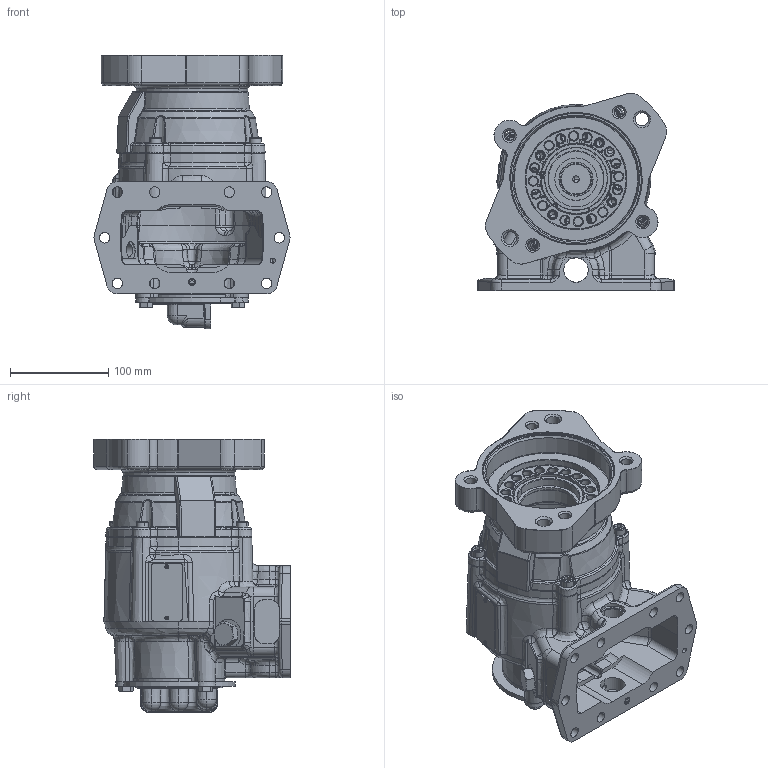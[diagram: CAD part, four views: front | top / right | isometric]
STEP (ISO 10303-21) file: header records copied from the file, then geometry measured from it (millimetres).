
FILE_DESCRIPTION (( 'STEP AP203' ), '1' );
FILE_NAME ('A30-A10XX-MX5CCPX.STEP', '2023-03-31T17:55:11', ( '' ), ( '' ), 'SwSTEP 2.0', 'SolidWorks 2021', '' );
FILE_SCHEMA (( 'CONFIG_CONTROL_DESIGN' ));
Length unit declared in the file: inch
Products named in the file (10): Part6^A30-A10XX-MX5CCPX; RemoteMountRearCover; 19T36588_19T36588; 14T65449; 15T65391DB3; A30-A10XX-MX5CCPX; 15T64348_DIECAST DESIGN; 19T3314_RearCover_HexHeadCapScrew_19T33134; 01T43513_5Arrangement; 25T35999TMP
Assembly tree (13 placements, depth 2):
  Part6^A30-A10XX-MX5CCPX
  A30-A10XX-MX5CCPX
    01T43513_5Arrangement
    14T65449
    15T65391DB3
    19T36588_19T36588  x4
    RemoteMountRearCover
    15T64348_DIECAST DESIGN
    19T3314_RearCover_HexHeadCapScrew_19T33134  x3
    25T35999TMP
Bounding box: 199.82 x 200.59 x 278.94 mm (x, y, z)
Volume: 1689430 mm3; surface area: 448110.2 mm2
Topology: 24 solids, 24 shells, 2843 faces, 7022 edges, 4285 vertices
Faces by surface type: plane 838, bspline 827, cylinder 595, cone 386, torus 185, sphere 12
Entity records: 121752 total; most frequent: CARTESIAN_POINT 60740, ORIENTED_EDGE 13390, DIRECTION 11151, EDGE_CURVE 6695, AXIS2_PLACEMENT_3D 4171, VERTEX_POINT 4142, EDGE_LOOP 3011, LINE 2809
